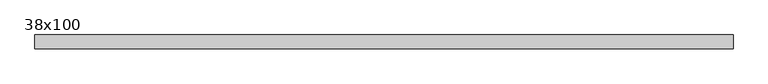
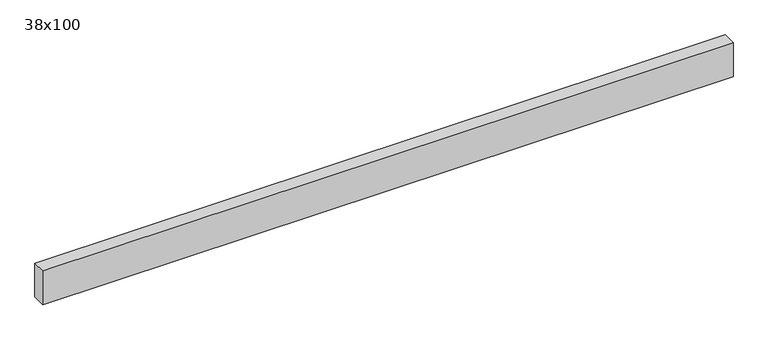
"""IFC4 building model written with IfcOpenShell, lengths in millimetres: beam geometry, Poutre - Bois de construction de dimensions courantes : 38x100."""

import ifcopenshell
import ifcopenshell.guid

model = None  # the IFC model being written
_history = None  # IfcOwnerHistory: only IFC2X3 demands one
_inside = {}  # id of a spatial element -> (the spatial element, [elements in it])
_under = {}  # id of a project, library or spatial element -> (it, [spatial elements below it])
_declared = {}  # id of a project -> (the project, [libraries it declares])
_typed = {}  # id of a type object -> (the type object, [elements of that type])
_made_of = {}  # id of a material, layer set ... -> (it, [elements and type objects made of it])


def new_model(schema):
    """Start an empty IFC model of exactly this schema.

    Asked for "IFC4X3", IfcOpenShell would pick the latest addendum, in which some entities
    have other attributes; the version numbers below select the first issue.
    IFC2X3 requires an IfcOwnerHistory on every rooted entity: one is made here for all.
    """
    global model, _history
    if schema == "IFC4X3":
        model = ifcopenshell.file(schema_version=(4, 3, 0, 0))
    else:
        model = ifcopenshell.file(schema=schema)
    _inside.clear()
    _under.clear()
    _declared.clear()
    _typed.clear()
    _made_of.clear()
    _history = None
    if model.schema == "IFC2X3":
        org = make("IfcOrganization", Name="unknown")
        user = make(
            "IfcPersonAndOrganization",
            ThePerson=make("IfcPerson", FamilyName="unknown"),
            TheOrganization=org,
        )
        app = make(
            "IfcApplication",
            ApplicationDeveloper=org,
            Version="unknown",
            ApplicationFullName="unknown",
            ApplicationIdentifier="unknown",
        )
        _history = make(
            "IfcOwnerHistory",
            OwningUser=user,
            OwningApplication=app,
            ChangeAction="ADDED",
            CreationDate=0,
        )
    return model


def make(cls, **values):
    """One entity of the class cls with the attributes given. An attribute that is None is left unset."""
    return model.create_entity(
        cls, **{name: value for name, value in values.items() if value is not None}
    )


def rooted(cls, **values):
    """An entity with a GlobalId (a new one), such as an element, a storey or a relation."""
    return make(cls, GlobalId=ifcopenshell.guid.new(), OwnerHistory=_history, **values)


def si_unit(unit_type, name, prefix=None):
    """IfcSIUnit, for example si_unit("LENGTHUNIT", "METRE", prefix="MILLI")."""
    return make("IfcSIUnit", UnitType=unit_type, Prefix=prefix, Name=name)


def assignment(units):
    """IfcUnitAssignment: the units of a project."""
    return None if units is None else make("IfcUnitAssignment", Units=units)


def point(xyz):
    """IfcCartesianPoint."""
    return None if xyz is None else make("IfcCartesianPoint", Coordinates=xyz)


def direction(xyz):
    """IfcDirection."""
    return None if xyz is None else make("IfcDirection", DirectionRatios=xyz)


def frame(location, z_axis=None, x_axis=None):
    """IfcAxis2Placement3D, a coordinate frame: its origin and axes. An axis left out is left unset."""
    return make(
        "IfcAxis2Placement3D",
        Location=point(location),
        Axis=direction(z_axis),
        RefDirection=direction(x_axis),
    )


def origin():
    """The frame at (0, 0, 0) with its axes left unset."""
    return frame((0.0, 0.0, 0.0))


def place(relative_to, where):
    """IfcLocalPlacement: puts the frame where relative to a parent placement (None: the world)."""
    return make(
        "IfcLocalPlacement", PlacementRelTo=relative_to, RelativePlacement=where
    )


def context(
    kind, dimensions, precision=None, world=None, true_north=None, identifier=None
):
    """IfcGeometricRepresentationContext, for example the 3D "Model" context."""
    return make(
        "IfcGeometricRepresentationContext",
        ContextIdentifier=identifier,
        ContextType=kind,
        CoordinateSpaceDimension=dimensions,
        Precision=precision,
        WorldCoordinateSystem=world,
        TrueNorth=true_north,
    )


def project(units=None, contexts=None):
    """IfcProject with its units and contexts."""
    return rooted(
        "IfcProject",
        Name="project",
        RepresentationContexts=contexts,
        UnitsInContext=assignment(units),
    )


def spatial(cls, under=None, at=None, **own):
    """A site, building, storey or space (cls), placed at a placement, below another one or the project."""
    s = rooted(cls, ObjectPlacement=at, **own)
    if under is not None:
        _under.setdefault(under.id(), (under, []))[1].append(s)
    return s


def polyline(points):
    """IfcPolyline through the points."""
    return make("IfcPolyline", Points=[point(p) for p in points])


def outline(outer, holes=None, kind="AREA"):
    """IfcArbitraryClosedProfileDef: a profile drawn as a closed curve; with holes, ...WithVoids."""
    if holes is None:
        return make("IfcArbitraryClosedProfileDef", ProfileType=kind, OuterCurve=outer)
    return make(
        "IfcArbitraryProfileDefWithVoids",
        ProfileType=kind,
        OuterCurve=outer,
        InnerCurves=holes,
    )


def extrude(swept, where, along, depth):
    """IfcExtrudedAreaSolid: the profile swept, set in the frame where, extruded along a direction by depth."""
    return make(
        "IfcExtrudedAreaSolid",
        SweptArea=swept,
        Position=where,
        ExtrudedDirection=direction(along),
        Depth=depth,
    )


def shape(context_of_items, identifier, shape_type, items):
    """IfcShapeRepresentation: the items that make up one representation, for example the "Body"."""
    return make(
        "IfcShapeRepresentation",
        ContextOfItems=context_of_items,
        RepresentationIdentifier=identifier,
        RepresentationType=shape_type,
        Items=items,
    )


def source(mapping_origin, context_of_items, identifier, shape_type, items):
    """IfcRepresentationMap: a shape defined once, which mapped items show again and again."""
    return make(
        "IfcRepresentationMap",
        MappingOrigin=mapping_origin,
        MappedRepresentation=shape(context_of_items, identifier, shape_type, items),
    )


def transform(
    local_origin,
    x_axis=None,
    y_axis=None,
    z_axis=None,
    scale=None,
    scale2=None,
    scale3=None,
    uniform=True,
):
    """IfcCartesianTransformationOperator3D, or its non-uniform kind. x_axis, y_axis, z_axis: its Axis1, 2, 3."""
    if uniform:
        return make(
            "IfcCartesianTransformationOperator3D",
            Axis1=direction(x_axis),
            Axis2=direction(y_axis),
            LocalOrigin=point(local_origin),
            Scale=scale,
            Axis3=direction(z_axis),
        )
    return make(
        "IfcCartesianTransformationOperator3DnonUniform",
        Axis1=direction(x_axis),
        Axis2=direction(y_axis),
        LocalOrigin=point(local_origin),
        Scale=scale,
        Axis3=direction(z_axis),
        Scale2=scale2,
        Scale3=scale3,
    )


def mapped(mapping_source, mapping_target):
    """IfcMappedItem: shows the shape of a source again, moved by a transform."""
    return make(
        "IfcMappedItem", MappingSource=mapping_source, MappingTarget=mapping_target
    )


def made_of(thing, what):
    """Note that an element or type object is made of a material, layer set ...; save() writes the relation."""
    if what is not None:
        _made_of.setdefault(what.id(), (what, []))[1].append(thing)
    return thing


def element(
    cls,
    number,
    at=None,
    inside=None,
    cuts=None,
    type_object=None,
    material=None,
    context=None,
    identifier="Body",
    shape_type=None,
    held_by="IfcProductDefinitionShape",
    body=None,
    shapes=None,
    **own,
):
    """One element of the class cls, such as IfcWall. Its Tag is "e" and its number.

    at: its placement. inside: the storey or other place that contains it. cuts: it is an
    opening in that element (IfcRelVoidsElement). A single representation is given by context,
    identifier, shape_type and body (its items); several are given by shapes. held_by: the class
    of the entity that holds the representations. save() writes the other relations.
    """
    e = rooted(cls, Tag="e%d" % number, ObjectPlacement=at, **own)
    if body is not None:
        shapes = [shape(context, identifier, shape_type, body)]
    if shapes is not None:
        e.Representation = make(held_by, Representations=shapes)
    if inside is not None:
        _inside.setdefault(inside.id(), (inside, []))[1].append(e)
    if cuts is not None:
        rooted(
            "IfcRelVoidsElement", RelatingBuildingElement=cuts, RelatedOpeningElement=e
        )
    if type_object is not None:
        _typed.setdefault(type_object.id(), (type_object, []))[1].append(e)
    return made_of(e, material)


def aggregate(whole, parts):
    """IfcRelAggregates: a whole, such as a stair, and the parts it consists of."""
    return rooted("IfcRelAggregates", RelatingObject=whole, RelatedObjects=parts)


def save(model, path):
    """Write the relations noted so far, then the file.

    IfcRelAggregates (storeys below a building ...), IfcRelContainedInSpatialStructure (elements
    in a storey), IfcRelDefinesByType, IfcRelAssociatesMaterial and IfcRelDeclares: one each for
    every whole, place, type object, material and project.
    """
    for whole, parts in _under.values():
        aggregate(whole, parts)
    for where, things in _inside.values():
        rooted(
            "IfcRelContainedInSpatialStructure",
            RelatedElements=things,
            RelatingStructure=where,
        )
    for kind, things in _typed.values():
        rooted("IfcRelDefinesByType", RelatedObjects=things, RelatingType=kind)
    for what, things in _made_of.values():
        rooted("IfcRelAssociatesMaterial", RelatedObjects=things, RelatingMaterial=what)
    for by, libraries in _declared.values():
        rooted("IfcRelDeclares", RelatingContext=by, RelatedDefinitions=libraries)
    model.write(path)


def beam_38x100_b98765c8(model_context):
    return source(origin(), model_context, "Body", "SweptSolid", [
        extrude(outline(polyline([(943.0, 19.05), (943.0, -19.05), (-987.0, -19.05), (-987.0, 19.05), (943.0, 19.05)])), frame((0.0, 0.0, -50.0), z_axis=(0.0, 0.0, 1.0), x_axis=(1.0, 0.0, 0.0)), (0.0, 0.0, 1.0), 100.0),
    ])


if __name__ == "__main__":
    model = new_model("IFC4")
    model_context = context("Model", 3, world=origin())
    ifc_project = project(units=[si_unit("LENGTHUNIT", "METRE", prefix="MILLI")], contexts=[model_context])
    site = spatial("IfcSite", under=ifc_project)
    building = spatial("IfcBuilding", under=site)
    placement = place(None, origin())
    beam_38x100_shape = beam_38x100_b98765c8(model_context)
    element("IfcBeam", 1, ObjectType="Poutre - Bois de construction de dimensions courantes : 38x100", at=placement, inside=building, context=model_context, shape_type="MappedRepresentation", body=[
        mapped(beam_38x100_shape, transform((0.0, 0.0, 0.0), x_axis=(1.0, 0.0, 0.0), y_axis=(0.0, 1.0, 0.0), z_axis=(0.0, 0.0, 1.0))),
    ])
    save(model, "model.ifc")
